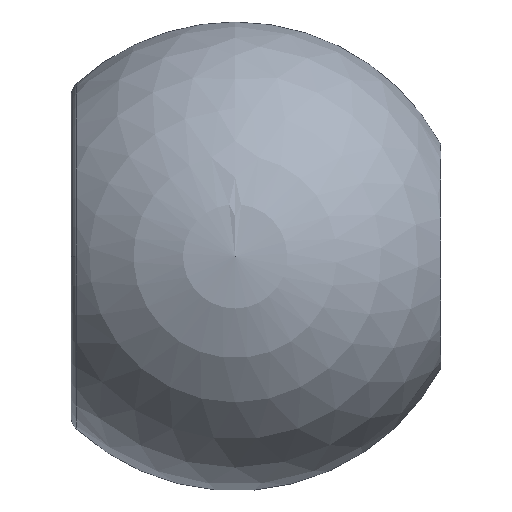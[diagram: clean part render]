
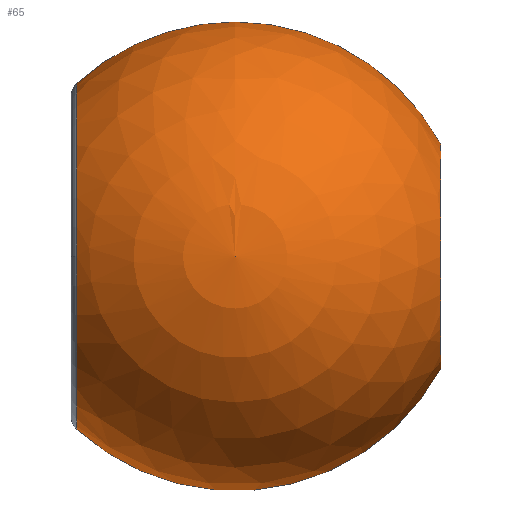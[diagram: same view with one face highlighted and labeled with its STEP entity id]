
A CAD part, front view. The second image highlights one B-rep face of the part: STEP entity #65.
In plain terms, the highlighted spherical face has radius 4.1 mm.
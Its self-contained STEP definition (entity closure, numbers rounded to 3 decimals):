
#6 = CARTESIAN_POINT ( 'NONE',  ( 0., 0., 0. ) ) ;
#38 = AXIS2_PLACEMENT_3D ( 'NONE', #271, #376, #380 ) ;
#65 = ADVANCED_FACE ( 'NONE', ( #122 ), #66, .T. ) ;
#66 = SPHERICAL_SURFACE ( 'NONE', #184, 4.1 ) ;
#75 = CARTESIAN_POINT ( 'NONE',  ( -2.772, 0., 0. ) ) ;
#77 = DIRECTION ( 'NONE',  ( 0., 1., 0. ) ) ;
#89 = CIRCLE ( 'NONE', #412, 3.021 ) ;
#95 = CARTESIAN_POINT ( 'NONE',  ( -2.772, -3.021, 0. ) ) ;
#102 = VERTEX_POINT ( 'NONE', #103 ) ;
#103 = CARTESIAN_POINT ( 'NONE',  ( 3.6, 0., -1.962 ) ) ;
#114 = CARTESIAN_POINT ( 'NONE',  ( 3.6, 0., 1.962 ) ) ;
#122 = FACE_OUTER_BOUND ( 'NONE', #292, .T. ) ;
#140 = AXIS2_PLACEMENT_3D ( 'NONE', #75, #407, #77 ) ;
#143 = AXIS2_PLACEMENT_3D ( 'NONE', #216, #155, #193 ) ;
#145 = CIRCLE ( 'NONE', #140, 3.021 ) ;
#149 = DIRECTION ( 'NONE',  ( 0., 0., 1. ) ) ;
#155 = DIRECTION ( 'NONE',  ( 1., 0., 0. ) ) ;
#160 = DIRECTION ( 'NONE',  ( 1., 0., 0. ) ) ;
#162 = ORIENTED_EDGE ( 'NONE', *, *, #249, .T. ) ;
#173 = CIRCLE ( 'NONE', #287, 4.1 ) ;
#184 = AXIS2_PLACEMENT_3D ( 'NONE', #369, #404, #442 ) ;
#189 = DIRECTION ( 'NONE',  ( 0., 1., 0. ) ) ;
#193 = DIRECTION ( 'NONE',  ( 0., 0., 1. ) ) ;
#198 = DIRECTION ( 'NONE',  ( 0., 1., 0. ) ) ;
#201 = EDGE_CURVE ( 'NONE', #102, #347, #173, .T. ) ;
#206 = ORIENTED_EDGE ( 'NONE', *, *, #215, .T. ) ;
#208 = ORIENTED_EDGE ( 'NONE', *, *, #393, .T. ) ;
#212 = VERTEX_POINT ( 'NONE', #114 ) ;
#215 = EDGE_CURVE ( 'NONE', #212, #391, #254, .T. ) ;
#216 = CARTESIAN_POINT ( 'NONE',  ( 3.6, 0., 0. ) ) ;
#237 = EDGE_CURVE ( 'NONE', #212, #102, #409, .T. ) ;
#249 = EDGE_CURVE ( 'NONE', #391, #411, #145, .T. ) ;
#254 = CIRCLE ( 'NONE', #38, 4.1 ) ;
#256 = CARTESIAN_POINT ( 'NONE',  ( -2.772, 0., 3.021 ) ) ;
#259 = ORIENTED_EDGE ( 'NONE', *, *, #237, .F. ) ;
#271 = CARTESIAN_POINT ( 'NONE',  ( 0., 0., 0. ) ) ;
#276 = CARTESIAN_POINT ( 'NONE',  ( -2.772, 0., 0. ) ) ;
#287 = AXIS2_PLACEMENT_3D ( 'NONE', #6, #189, #149 ) ;
#292 = EDGE_LOOP ( 'NONE', ( #419, #259, #206, #162, #208 ) ) ;
#347 = VERTEX_POINT ( 'NONE', #350 ) ;
#350 = CARTESIAN_POINT ( 'NONE',  ( -2.772, 0., -3.021 ) ) ;
#369 = CARTESIAN_POINT ( 'NONE',  ( 0., 0., 0. ) ) ;
#376 = DIRECTION ( 'NONE',  ( 0., -1., 0. ) ) ;
#380 = DIRECTION ( 'NONE',  ( 0., 0., -1. ) ) ;
#391 = VERTEX_POINT ( 'NONE', #256 ) ;
#393 = EDGE_CURVE ( 'NONE', #411, #347, #89, .T. ) ;
#404 = DIRECTION ( 'NONE',  ( 0., 1., 0. ) ) ;
#407 = DIRECTION ( 'NONE',  ( 1., 0., 0. ) ) ;
#409 = CIRCLE ( 'NONE', #143, 1.962 ) ;
#411 = VERTEX_POINT ( 'NONE', #95 ) ;
#412 = AXIS2_PLACEMENT_3D ( 'NONE', #276, #160, #198 ) ;
#419 = ORIENTED_EDGE ( 'NONE', *, *, #201, .F. ) ;
#442 = DIRECTION ( 'NONE',  ( 0., 0., 1. ) ) ;
